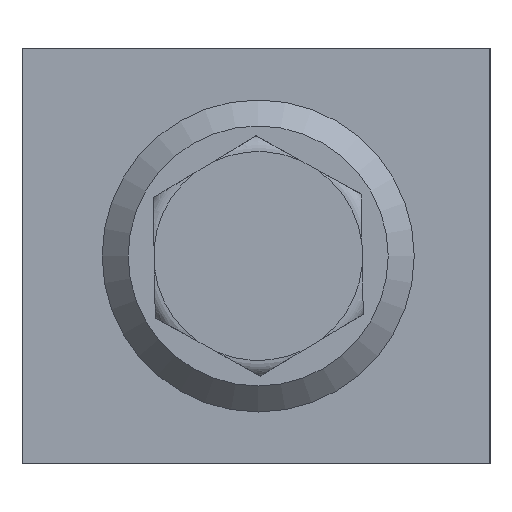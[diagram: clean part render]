
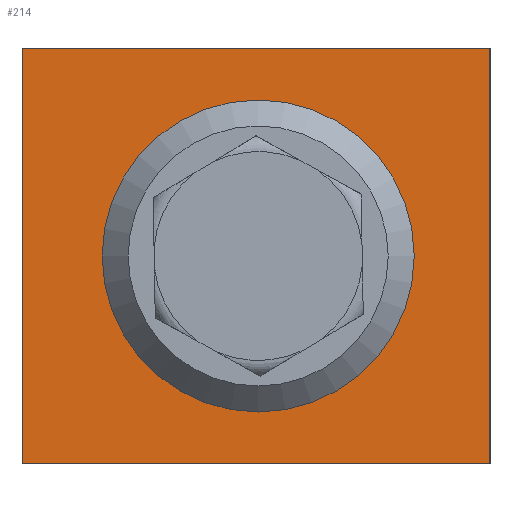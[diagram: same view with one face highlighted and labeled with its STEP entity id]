
A CAD part, left-side view. The second image highlights one B-rep face of the part: STEP entity #214.
In plain terms, the highlighted planar face has unit normal (-1, 0, 0).
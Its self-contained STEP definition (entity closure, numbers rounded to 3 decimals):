
#214=ADVANCED_FACE('',(#520,#521),#302,.F.);
#302=PLANE('',#1485);
#340=LINE('',#2011,#428);
#344=LINE('',#2026,#432);
#345=LINE('',#2028,#433);
#346=LINE('',#2030,#434);
#428=VECTOR('',#1630,1.);
#432=VECTOR('',#1642,1.);
#433=VECTOR('',#1643,1.);
#434=VECTOR('',#1644,1.);
#520=FACE_BOUND('',#584,.T.);
#521=FACE_BOUND('',#585,.T.);
#584=EDGE_LOOP('',(#701));
#585=EDGE_LOOP('',(#702,#703,#704,#705));
#701=ORIENTED_EDGE('',*,*,#1234,.F.);
#702=ORIENTED_EDGE('',*,*,#1228,.T.);
#703=ORIENTED_EDGE('',*,*,#1235,.F.);
#704=ORIENTED_EDGE('',*,*,#1236,.F.);
#705=ORIENTED_EDGE('',*,*,#1237,.T.);
#1083=VERTEX_POINT('',#2012);
#1084=VERTEX_POINT('',#2013);
#1089=VERTEX_POINT('',#2025);
#1090=VERTEX_POINT('',#2027);
#1091=VERTEX_POINT('',#2029);
#1228=EDGE_CURVE('',#1083,#1084,#340,.T.);
#1234=EDGE_CURVE('',#1089,#1089,#1424,.T.);
#1235=EDGE_CURVE('',#1090,#1084,#344,.T.);
#1236=EDGE_CURVE('',#1091,#1090,#345,.T.);
#1237=EDGE_CURVE('',#1091,#1083,#346,.T.);
#1424=CIRCLE('',#1484,30.);
#1484=AXIS2_PLACEMENT_3D('',#2024,#1640,#1641);
#1485=AXIS2_PLACEMENT_3D('',#2031,#1645,#1646);
#1630=DIRECTION('',(0.,-1.,0.));
#1640=DIRECTION('',(-1.,0.,0.));
#1641=DIRECTION('',(0.,-1.,0.));
#1642=DIRECTION('',(0.,0.,-1.));
#1643=DIRECTION('',(0.,-1.,0.));
#1644=DIRECTION('',(0.,0.,-1.));
#1645=DIRECTION('',(1.,0.,0.));
#1646=DIRECTION('',(0.,0.,-1.));
#2011=CARTESIAN_POINT('',(-67.5,45.,0.));
#2012=CARTESIAN_POINT('',(-67.5,45.,0.));
#2013=CARTESIAN_POINT('',(-67.5,-45.,0.));
#2024=CARTESIAN_POINT('',(-67.5,-0.421,40.));
#2025=CARTESIAN_POINT('',(-67.5,-30.421,40.));
#2026=CARTESIAN_POINT('',(-67.5,-45.,80.));
#2027=CARTESIAN_POINT('',(-67.5,-45.,80.));
#2028=CARTESIAN_POINT('',(-67.5,45.,80.));
#2029=CARTESIAN_POINT('',(-67.5,45.,80.));
#2030=CARTESIAN_POINT('',(-67.5,45.,80.));
#2031=CARTESIAN_POINT('',(-67.5,45.,80.));
